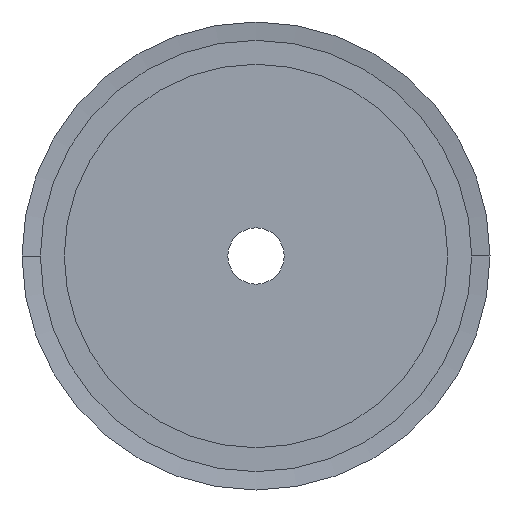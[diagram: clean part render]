
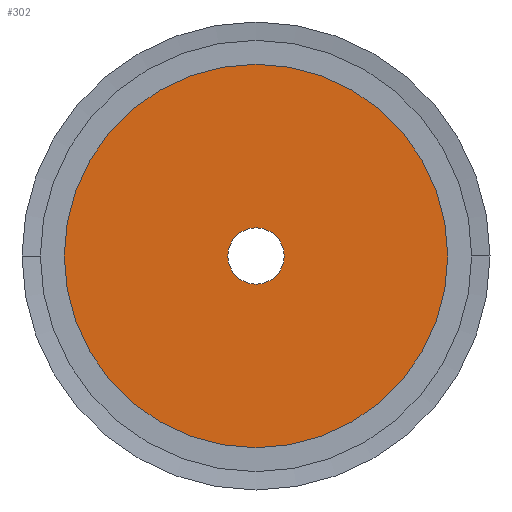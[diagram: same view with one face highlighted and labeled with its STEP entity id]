
A CAD part, left-side view. The second image highlights one B-rep face of the part: STEP entity #302.
In plain terms, the highlighted planar face has unit normal (-1, 0, 0).
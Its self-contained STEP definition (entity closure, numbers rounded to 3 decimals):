
#302 = ADVANCED_FACE( '', ( #764, #765 ), #766, .T. );
#764 = FACE_BOUND( '', #1227, .T. );
#765 = FACE_OUTER_BOUND( '', #1228, .T. );
#766 = PLANE( '', #1229 );
#1227 = EDGE_LOOP( '', ( #3217, #3218 ) );
#1228 = EDGE_LOOP( '', ( #3219, #3220 ) );
#1229 = AXIS2_PLACEMENT_3D( '', #3221, #3222, #3223 );
#3217 = ORIENTED_EDGE( '', *, *, #3267, .T. );
#3218 = ORIENTED_EDGE( '', *, *, #3263, .T. );
#3219 = ORIENTED_EDGE( '', *, *, #3227, .T. );
#3220 = ORIENTED_EDGE( '', *, *, #3878, .T. );
#3221 = CARTESIAN_POINT( '', ( 0., 17., 0. ) );
#3222 = DIRECTION( '', ( -1., 0., 0. ) );
#3223 = DIRECTION( '', ( 0., 1., 0. ) );
#3227 = EDGE_CURVE( '', #3880, #3884, #3886, .T. );
#3263 = EDGE_CURVE( '', #3952, #3949, #3953, .T. );
#3267 = EDGE_CURVE( '', #3949, #3952, #3958, .T. );
#3878 = EDGE_CURVE( '', #3884, #3880, #4967, .T. );
#3880 = VERTEX_POINT( '', #4969 );
#3884 = VERTEX_POINT( '', #4974 );
#3886 = CIRCLE( '', #4977, 34. );
#3949 = VERTEX_POINT( '', #5058 );
#3952 = VERTEX_POINT( '', #5062 );
#3953 = CIRCLE( '', #5063, 5. );
#3958 = CIRCLE( '', #5069, 5. );
#4967 = CIRCLE( '', #6427, 34. );
#4969 = CARTESIAN_POINT( '', ( 0., 34., 0. ) );
#4974 = CARTESIAN_POINT( '', ( 0., -34., 0. ) );
#4977 = AXIS2_PLACEMENT_3D( '', #6433, #6434, #6435 );
#5058 = CARTESIAN_POINT( '', ( 0., 5., 0. ) );
#5062 = CARTESIAN_POINT( '', ( 0., -5., 0. ) );
#5063 = AXIS2_PLACEMENT_3D( '', #6503, #6504, #6505 );
#5069 = AXIS2_PLACEMENT_3D( '', #6513, #6514, #6515 );
#6427 = AXIS2_PLACEMENT_3D( '', #7648, #7649, #7650 );
#6433 = CARTESIAN_POINT( '', ( 0., 0., 0. ) );
#6434 = DIRECTION( '', ( -1., 0., 0. ) );
#6435 = DIRECTION( '', ( 0., 1., 0. ) );
#6503 = CARTESIAN_POINT( '', ( 0., 0., 0. ) );
#6504 = DIRECTION( '', ( 1., 0., 0. ) );
#6505 = DIRECTION( '', ( 0., 1., 0. ) );
#6513 = CARTESIAN_POINT( '', ( 0., 0., 0. ) );
#6514 = DIRECTION( '', ( 1., 0., 0. ) );
#6515 = DIRECTION( '', ( 0., 1., 0. ) );
#7648 = CARTESIAN_POINT( '', ( 0., 0., 0. ) );
#7649 = DIRECTION( '', ( -1., 0., 0. ) );
#7650 = DIRECTION( '', ( 0., 1., 0. ) );
